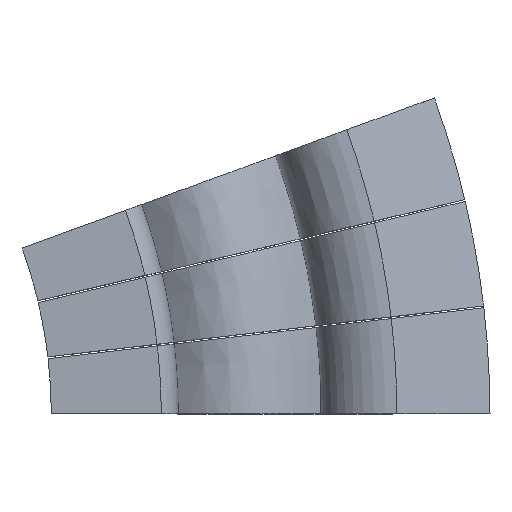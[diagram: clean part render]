
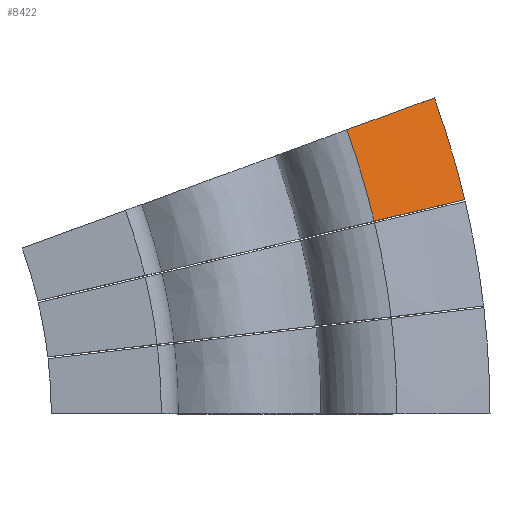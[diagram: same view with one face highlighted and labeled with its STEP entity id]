
A CAD part, top view. The second image highlights one B-rep face of the part: STEP entity #8422.
In plain terms, the highlighted conical face has half-angle 75 degrees and reference radius 7698.52 mm.
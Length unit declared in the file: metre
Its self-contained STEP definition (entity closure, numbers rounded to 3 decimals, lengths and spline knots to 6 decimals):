
#8422 = ADVANCED_FACE('',(#8423),#8438,.T.);
#8423 = FACE_BOUND('',#8424,.F.);
#8424 = EDGE_LOOP('',(#8425,#8464,#8493,#8525));
#8425 = ORIENTED_EDGE('',*,*,#8426,.F.);
#8426 = EDGE_CURVE('',#8427,#8429,#8431,.T.);
#8427 = VERTEX_POINT('',#8428);
#8428 = CARTESIAN_POINT('',(9.30694,2.216062,
    -5.456942));
#8429 = VERTEX_POINT('',#8430);
#8430 = CARTESIAN_POINT('',(10.345082,2.462107,
    -5.742817));
#8431 = SURFACE_CURVE('',#8432,(#8437,#8452),.PCURVE_S1.);
#8432 = HYPERBOLA('',#8433,0.002679,0.01);
#8433 = AXIS2_PLACEMENT_3D('',#8434,#8435,#8436);
#8434 = CARTESIAN_POINT('',(-0.002306,0.00973,
    -2.893436));
#8435 = DIRECTION('',(0.231,-0.973,-0.));
#8436 = DIRECTION('',(-0.,0.,-1.));
#8437 = PCURVE('',#8438,#8443);
#8438 = CONICAL_SURFACE('',#8439,7.698525,1.309);
#8439 = AXIS2_PLACEMENT_3D('',#8440,#8441,#8442);
#8440 = CARTESIAN_POINT('',(0.,0.,-4.95625));
#8441 = DIRECTION('',(-0.,-0.,-1.));
#8442 = DIRECTION('',(1.,0.,0.));
#8443 = DEFINITIONAL_REPRESENTATION('',(#8444),#8451);
#8444 = B_SPLINE_CURVE_WITH_KNOTS('',5,(#8445,#8446,#8447,#8448,#8449,
    #8450),.UNSPECIFIED.,.F.,.F.,(6,6),(7.556651,7.662377),
  .PIECEWISE_BEZIER_KNOTS.);
#8445 = CARTESIAN_POINT('',(-0.234,0.501));
#8446 = CARTESIAN_POINT('',(-0.234,0.555));
#8447 = CARTESIAN_POINT('',(-0.234,0.611));
#8448 = CARTESIAN_POINT('',(-0.234,0.668));
#8449 = CARTESIAN_POINT('',(-0.234,0.726));
#8450 = CARTESIAN_POINT('',(-0.234,0.787));
#8451 = ( GEOMETRIC_REPRESENTATION_CONTEXT(2) 
PARAMETRIC_REPRESENTATION_CONTEXT() REPRESENTATION_CONTEXT('2D SPACE',''
  ) );
#8452 = PCURVE('',#8453,#8458);
#8453 = PLANE('',#8454);
#8454 = AXIS2_PLACEMENT_3D('',#8455,#8456,#8457);
#8455 = CARTESIAN_POINT('',(7.899927,1.882594,
    -6.490981));
#8456 = DIRECTION('',(0.231,-0.973,-0.));
#8457 = DIRECTION('',(0.,0.,-1.));
#8458 = DEFINITIONAL_REPRESENTATION('',(#8459),#8463);
#8459 = ( BOUNDED_CURVE() B_SPLINE_CURVE(2,(#8460,#8461,#8462),
.UNSPECIFIED.,.F.,.F.) B_SPLINE_CURVE_WITH_KNOTS((3,3),(7.556651,
7.662377),.PIECEWISE_BEZIER_KNOTS.) CURVE() 
GEOMETRIC_REPRESENTATION_ITEM() RATIONAL_B_SPLINE_CURVE((1.,
1.001,1.)) REPRESENTATION_ITEM('') );
#8460 = CARTESIAN_POINT('',(-1.034,1.446));
#8461 = CARTESIAN_POINT('',(-0.899,1.951));
#8462 = CARTESIAN_POINT('',(-0.748,2.513));
#8463 = ( GEOMETRIC_REPRESENTATION_CONTEXT(2) 
PARAMETRIC_REPRESENTATION_CONTEXT() REPRESENTATION_CONTEXT('2D SPACE',''
  ) );
#8464 = ORIENTED_EDGE('',*,*,#8465,.T.);
#8465 = EDGE_CURVE('',#8427,#8466,#8468,.T.);
#8466 = VERTEX_POINT('',#8467);
#8467 = CARTESIAN_POINT('',(8.993581,3.262754,
    -5.456942));
#8468 = SURFACE_CURVE('',#8469,(#8474,#8481),.PCURVE_S1.);
#8469 = CIRCLE('',#8470,9.567135);
#8470 = AXIS2_PLACEMENT_3D('',#8471,#8472,#8473);
#8471 = CARTESIAN_POINT('',(0.,0.,-5.456942));
#8472 = DIRECTION('',(0.,0.,1.));
#8473 = DIRECTION('',(1.,0.,-0.));
#8474 = PCURVE('',#8438,#8475);
#8475 = DEFINITIONAL_REPRESENTATION('',(#8476),#8480);
#8476 = LINE('',#8477,#8478);
#8477 = CARTESIAN_POINT('',(-0.,0.501));
#8478 = VECTOR('',#8479,1.);
#8479 = DIRECTION('',(-1.,0.));
#8480 = ( GEOMETRIC_REPRESENTATION_CONTEXT(2) 
PARAMETRIC_REPRESENTATION_CONTEXT() REPRESENTATION_CONTEXT('2D SPACE',''
  ) );
#8481 = PCURVE('',#8482,#8487);
#8482 = TOROIDAL_SURFACE('',#8483,9.510722,0.81265);
#8483 = AXIS2_PLACEMENT_3D('',#8484,#8485,#8486);
#8484 = CARTESIAN_POINT('',(0.,0.,-6.267632));
#8485 = DIRECTION('',(0.,0.,1.));
#8486 = DIRECTION('',(1.,0.,-0.));
#8487 = DEFINITIONAL_REPRESENTATION('',(#8488),#8492);
#8488 = LINE('',#8489,#8490);
#8489 = CARTESIAN_POINT('',(0.,1.501));
#8490 = VECTOR('',#8491,1.);
#8491 = DIRECTION('',(1.,0.));
#8492 = ( GEOMETRIC_REPRESENTATION_CONTEXT(2) 
PARAMETRIC_REPRESENTATION_CONTEXT() REPRESENTATION_CONTEXT('2D SPACE',''
  ) );
#8493 = ORIENTED_EDGE('',*,*,#8494,.T.);
#8494 = EDGE_CURVE('',#8466,#8495,#8497,.T.);
#8495 = VERTEX_POINT('',#8496);
#8496 = CARTESIAN_POINT('',(9.99614,3.627656,
    -5.742817));
#8497 = SURFACE_CURVE('',#8498,(#8503,#8513),.PCURVE_S1.);
#8498 = HYPERBOLA('',#8499,0.002679,0.01);
#8499 = AXIS2_PLACEMENT_3D('',#8500,#8501,#8502);
#8500 = CARTESIAN_POINT('',(0.00342,-0.009397,
    -2.893436));
#8501 = DIRECTION('',(0.342,-0.94,-0.));
#8502 = DIRECTION('',(-0.,0.,-1.));
#8503 = PCURVE('',#8438,#8504);
#8504 = DEFINITIONAL_REPRESENTATION('',(#8505),#8512);
#8505 = B_SPLINE_CURVE_WITH_KNOTS('',5,(#8506,#8507,#8508,#8509,#8510,
    #8511),.UNSPECIFIED.,.F.,.F.,(6,6),(7.556651,7.662377),
  .PIECEWISE_BEZIER_KNOTS.);
#8506 = CARTESIAN_POINT('',(-0.348,0.501));
#8507 = CARTESIAN_POINT('',(-0.348,0.555));
#8508 = CARTESIAN_POINT('',(-0.348,0.611));
#8509 = CARTESIAN_POINT('',(-0.348,0.668));
#8510 = CARTESIAN_POINT('',(-0.348,0.726));
#8511 = CARTESIAN_POINT('',(-0.348,0.787));
#8512 = ( GEOMETRIC_REPRESENTATION_CONTEXT(2) 
PARAMETRIC_REPRESENTATION_CONTEXT() REPRESENTATION_CONTEXT('2D SPACE',''
  ) );
#8513 = PCURVE('',#8514,#8519);
#8514 = PLANE('',#8515);
#8515 = AXIS2_PLACEMENT_3D('',#8516,#8517,#8518);
#8516 = CARTESIAN_POINT('',(7.634795,2.768196,
    -6.490981));
#8517 = DIRECTION('',(0.342,-0.94,-0.));
#8518 = DIRECTION('',(0.,0.,-1.));
#8519 = DEFINITIONAL_REPRESENTATION('',(#8520),#8524);
#8520 = ( BOUNDED_CURVE() B_SPLINE_CURVE(2,(#8521,#8522,#8523),
.UNSPECIFIED.,.F.,.F.) B_SPLINE_CURVE_WITH_KNOTS((3,3),(7.556651,
7.662377),.PIECEWISE_BEZIER_KNOTS.) CURVE() 
GEOMETRIC_REPRESENTATION_ITEM() RATIONAL_B_SPLINE_CURVE((1.,
1.001,1.)) REPRESENTATION_ITEM('') );
#8521 = CARTESIAN_POINT('',(-1.034,1.446));
#8522 = CARTESIAN_POINT('',(-0.899,1.951));
#8523 = CARTESIAN_POINT('',(-0.748,2.513));
#8524 = ( GEOMETRIC_REPRESENTATION_CONTEXT(2) 
PARAMETRIC_REPRESENTATION_CONTEXT() REPRESENTATION_CONTEXT('2D SPACE',''
  ) );
#8525 = ORIENTED_EDGE('',*,*,#8526,.F.);
#8526 = EDGE_CURVE('',#8429,#8495,#8527,.T.);
#8527 = SURFACE_CURVE('',#8528,(#8533,#8540),.PCURVE_S1.);
#8528 = CIRCLE('',#8529,10.634035);
#8529 = AXIS2_PLACEMENT_3D('',#8530,#8531,#8532);
#8530 = CARTESIAN_POINT('',(0.,0.,-5.742817));
#8531 = DIRECTION('',(0.,0.,1.));
#8532 = DIRECTION('',(1.,0.,-0.));
#8533 = PCURVE('',#8438,#8534);
#8534 = DEFINITIONAL_REPRESENTATION('',(#8535),#8539);
#8535 = LINE('',#8536,#8537);
#8536 = CARTESIAN_POINT('',(-0.,0.787));
#8537 = VECTOR('',#8538,1.);
#8538 = DIRECTION('',(-1.,0.));
#8539 = ( GEOMETRIC_REPRESENTATION_CONTEXT(2) 
PARAMETRIC_REPRESENTATION_CONTEXT() REPRESENTATION_CONTEXT('2D SPACE',''
  ) );
#8540 = PCURVE('',#8541,#8581);
#8541 = SURFACE_OF_REVOLUTION('',#8542,#8578);
#8542 = B_SPLINE_CURVE_WITH_KNOTS('',3,(#8543,#8544,#8545,#8546,#8547,
    #8548,#8549,#8550,#8551,#8552,#8553,#8554,#8555,#8556,#8557,#8558,
    #8559,#8560,#8561,#8562,#8563,#8564,#8565,#8566,#8567,#8568,#8569,
    #8570,#8571,#8572,#8573,#8574,#8575,#8576,#8577),.UNSPECIFIED.,.F.,
  .F.,(4,1,1,1,1,1,1,1,1,1,1,1,1,1,1,1,1,1,1,1,1,1,1,1,1,1,1,1,1,1,1,1,4
    ),(24.388417,24.477677,24.633066,24.789001,
    24.945657,25.103295,25.262326,25.423452,
    25.587993,25.758874,25.9448,26.216952,
    26.771342,27.234154,27.408578,27.587967,
    27.77302,27.964468,28.162992,28.369096,
    28.582898,28.803896,29.030767,29.261336,
    29.492829,29.722358,29.947472,30.166508,
    30.378666,30.583861,30.782477,30.975144,
    31.11427),.UNSPECIFIED.);
#8543 = CARTESIAN_POINT('',(10.634035,0.,-5.742817));
#8544 = CARTESIAN_POINT('',(10.616853,0.,-5.767109));
#8545 = CARTESIAN_POINT('',(10.569722,0.,-5.83366));
#8546 = CARTESIAN_POINT('',(10.492351,0.,-5.942487));
#8547 = CARTESIAN_POINT('',(10.401597,0.,-6.069364));
#8548 = CARTESIAN_POINT('',(10.309952,0.,-6.196524));
#8549 = CARTESIAN_POINT('',(10.217132,0.,-6.324108));
#8550 = CARTESIAN_POINT('',(10.122704,0.,-6.452363));
#8551 = CARTESIAN_POINT('',(10.025958,0.,-6.581759));
#8552 = CARTESIAN_POINT('',(9.925512,0.,-6.71333));
#8553 = CARTESIAN_POINT('',(9.818184,0.,-6.849963));
#8554 = CARTESIAN_POINT('',(9.684691,0.,-7.011933));
#8555 = CARTESIAN_POINT('',(9.460506,0.,-7.262231));
#8556 = CARTESIAN_POINT('',(9.088723,0.,-7.520866));
#8557 = CARTESIAN_POINT('',(8.679513,0.,-7.52698));
#8558 = CARTESIAN_POINT('',(8.408882,0.,-7.508563));
#8559 = CARTESIAN_POINT('',(8.229755,0.,-7.492831));
#8560 = CARTESIAN_POINT('',(8.045836,0.,-7.470331));
#8561 = CARTESIAN_POINT('',(7.856547,0.,-7.439741));
#8562 = CARTESIAN_POINT('',(7.662018,0.,-7.398883));
#8563 = CARTESIAN_POINT('',(7.462798,0.,-7.34543));
#8564 = CARTESIAN_POINT('',(7.260279,0.,-7.27689));
#8565 = CARTESIAN_POINT('',(7.056891,0.,-7.191005));
#8566 = CARTESIAN_POINT('',(6.856161,0.,-7.086254));
#8567 = CARTESIAN_POINT('',(6.662402,0.,-6.962412));
#8568 = CARTESIAN_POINT('',(6.480018,0.,-6.820882));
#8569 = CARTESIAN_POINT('',(6.312642,0.,-6.664558));
#8570 = CARTESIAN_POINT('',(6.162486,0.,-6.497214));
#8571 = CARTESIAN_POINT('',(6.030165,0.,-6.322712));
#8572 = CARTESIAN_POINT('',(5.914981,0.,-6.144364));
#8573 = CARTESIAN_POINT('',(5.815413,0.,-5.96464));
#8574 = CARTESIAN_POINT('',(5.729592,0.,-5.785175));
#8575 = CARTESIAN_POINT('',(5.661805,0.,-5.621805));
#8576 = CARTESIAN_POINT('',(5.623582,0.,-5.517998));
#8577 = CARTESIAN_POINT('',(5.608244,0.,-5.474229));
#8578 = AXIS1_PLACEMENT('',#8579,#8580);
#8579 = CARTESIAN_POINT('',(0.,0.,0.));
#8580 = DIRECTION('',(0.,0.,1.));
#8581 = DEFINITIONAL_REPRESENTATION('',(#8582),#8586);
#8582 = LINE('',#8583,#8584);
#8583 = CARTESIAN_POINT('',(0.,24.388));
#8584 = VECTOR('',#8585,1.);
#8585 = DIRECTION('',(1.,0.));
#8586 = ( GEOMETRIC_REPRESENTATION_CONTEXT(2) 
PARAMETRIC_REPRESENTATION_CONTEXT() REPRESENTATION_CONTEXT('2D SPACE',''
  ) );
